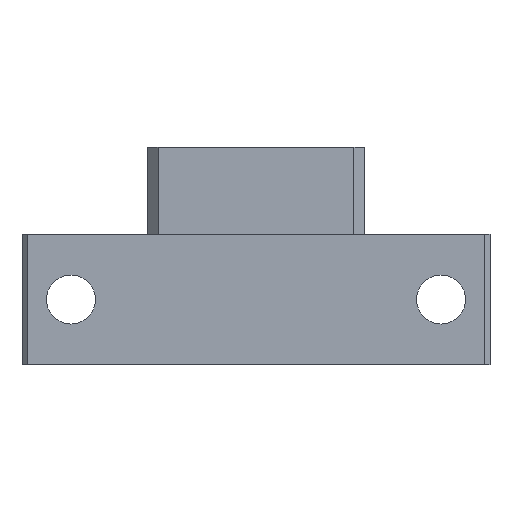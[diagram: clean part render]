
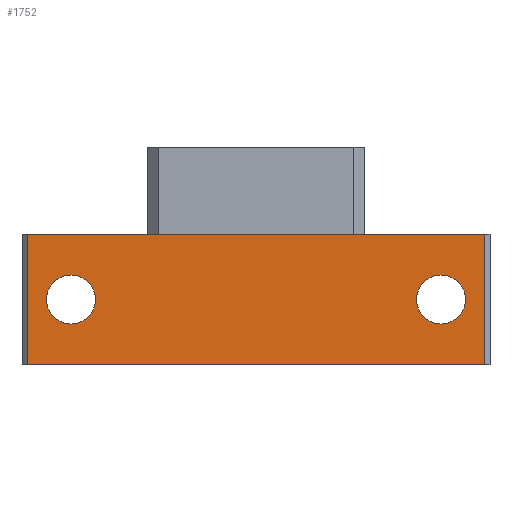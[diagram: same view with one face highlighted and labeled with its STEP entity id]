
A CAD part, front view. The second image highlights one B-rep face of the part: STEP entity #1752.
In plain terms, the highlighted planar face has unit normal (0, -1, 0).
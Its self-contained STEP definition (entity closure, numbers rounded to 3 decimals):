
#57 = DIRECTION ( 'NONE',  ( 0., 1., 0. ) ) ;
#88 = CIRCLE ( 'NONE', #469, 2.25 ) ;
#94 = DIRECTION ( 'NONE',  ( 0., 0., -1. ) ) ;
#267 = DIRECTION ( 'NONE',  ( 0., 0., 1. ) ) ;
#374 = DIRECTION ( 'NONE',  ( 0., 1., 0. ) ) ;
#454 = LINE ( 'NONE', #3348, #1634 ) ;
#469 = AXIS2_PLACEMENT_3D ( 'NONE', #1225, #57, #4131 ) ;
#475 = CARTESIAN_POINT ( 'NONE',  ( -17., -18.5, 6. ) ) ;
#523 = DIRECTION ( 'NONE',  ( 0., 0., 1. ) ) ;
#555 = ORIENTED_EDGE ( 'NONE', *, *, #768, .F. ) ;
#632 = EDGE_CURVE ( 'NONE', #3529, #4217, #684, .T. ) ;
#684 = CIRCLE ( 'NONE', #3341, 2.25 ) ;
#687 = VECTOR ( 'NONE', #3999, 1000. ) ;
#703 = FACE_OUTER_BOUND ( 'NONE', #3134, .T. ) ;
#720 = VECTOR ( 'NONE', #860, 1000. ) ;
#768 = EDGE_CURVE ( 'NONE', #3103, #4300, #1525, .T. ) ;
#801 = CARTESIAN_POINT ( 'NONE',  ( 17., -18.5, 8.25 ) ) ;
#860 = DIRECTION ( 'NONE',  ( 0., 0., -1. ) ) ;
#1006 = LINE ( 'NONE', #2483, #2695 ) ;
#1078 = DIRECTION ( 'NONE',  ( 0., 0., 1. ) ) ;
#1119 = DIRECTION ( 'NONE',  ( 0., -1., 0. ) ) ;
#1120 = AXIS2_PLACEMENT_3D ( 'NONE', #475, #2731, #523 ) ;
#1164 = ORIENTED_EDGE ( 'NONE', *, *, #2159, .T. ) ;
#1225 = CARTESIAN_POINT ( 'NONE',  ( 17., -18.5, 6. ) ) ;
#1250 = CARTESIAN_POINT ( 'NONE',  ( -17., -18.5, 3.75 ) ) ;
#1525 = LINE ( 'NONE', #2979, #687 ) ;
#1590 = EDGE_CURVE ( 'NONE', #4300, #4219, #454, .T. ) ;
#1634 = VECTOR ( 'NONE', #94, 1000. ) ;
#1690 = EDGE_CURVE ( 'NONE', #3649, #3241, #2877, .T. ) ;
#1752 = ADVANCED_FACE ( 'NONE', ( #2805, #4561, #703 ), #4002, .F. ) ;
#1879 = EDGE_LOOP ( 'NONE', ( #4385, #2147 ) ) ;
#1943 = EDGE_CURVE ( 'NONE', #3103, #4393, #4065, .T. ) ;
#1959 = EDGE_LOOP ( 'NONE', ( #3095, #3030 ) ) ;
#2084 = DIRECTION ( 'NONE',  ( 1., 0., 0. ) ) ;
#2130 = CARTESIAN_POINT ( 'NONE',  ( -17., -18.5, 6. ) ) ;
#2147 = ORIENTED_EDGE ( 'NONE', *, *, #3580, .T. ) ;
#2159 = EDGE_CURVE ( 'NONE', #4393, #4219, #1006, .T. ) ;
#2338 = AXIS2_PLACEMENT_3D ( 'NONE', #2558, #3514, #267 ) ;
#2483 = CARTESIAN_POINT ( 'NONE',  ( -21., -18.5, 0. ) ) ;
#2558 = CARTESIAN_POINT ( 'NONE',  ( -21., -18.5, 12. ) ) ;
#2611 = CIRCLE ( 'NONE', #2657, 2.25 ) ;
#2657 = AXIS2_PLACEMENT_3D ( 'NONE', #2130, #1119, #1078 ) ;
#2695 = VECTOR ( 'NONE', #2084, 1000. ) ;
#2731 = DIRECTION ( 'NONE',  ( 0., -1., 0. ) ) ;
#2805 = FACE_BOUND ( 'NONE', #1959, .T. ) ;
#2877 = CIRCLE ( 'NONE', #1120, 2.25 ) ;
#2979 = CARTESIAN_POINT ( 'NONE',  ( -21., -18.5, 12. ) ) ;
#3030 = ORIENTED_EDGE ( 'NONE', *, *, #1690, .F. ) ;
#3086 = CARTESIAN_POINT ( 'NONE',  ( 21., -18.5, 0. ) ) ;
#3095 = ORIENTED_EDGE ( 'NONE', *, *, #3369, .F. ) ;
#3103 = VERTEX_POINT ( 'NONE', #3357 ) ;
#3134 = EDGE_LOOP ( 'NONE', ( #1164, #3149, #555, #4268 ) ) ;
#3149 = ORIENTED_EDGE ( 'NONE', *, *, #1590, .F. ) ;
#3181 = DIRECTION ( 'NONE',  ( 0., 0., 1. ) ) ;
#3241 = VERTEX_POINT ( 'NONE', #4139 ) ;
#3341 = AXIS2_PLACEMENT_3D ( 'NONE', #4672, #374, #3181 ) ;
#3348 = CARTESIAN_POINT ( 'NONE',  ( 21., -18.5, 12. ) ) ;
#3357 = CARTESIAN_POINT ( 'NONE',  ( -21., -18.5, 12. ) ) ;
#3369 = EDGE_CURVE ( 'NONE', #3241, #3649, #2611, .T. ) ;
#3514 = DIRECTION ( 'NONE',  ( 0., 1., 0. ) ) ;
#3529 = VERTEX_POINT ( 'NONE', #801 ) ;
#3580 = EDGE_CURVE ( 'NONE', #4217, #3529, #88, .T. ) ;
#3649 = VERTEX_POINT ( 'NONE', #1250 ) ;
#3698 = CARTESIAN_POINT ( 'NONE',  ( -21., -18.5, 0. ) ) ;
#3872 = CARTESIAN_POINT ( 'NONE',  ( 17., -18.5, 3.75 ) ) ;
#3999 = DIRECTION ( 'NONE',  ( 1., 0., 0. ) ) ;
#4002 = PLANE ( 'NONE',  #2338 ) ;
#4065 = LINE ( 'NONE', #4088, #720 ) ;
#4088 = CARTESIAN_POINT ( 'NONE',  ( -21., -18.5, 12. ) ) ;
#4131 = DIRECTION ( 'NONE',  ( 0., 0., 1. ) ) ;
#4139 = CARTESIAN_POINT ( 'NONE',  ( -17., -18.5, 8.25 ) ) ;
#4217 = VERTEX_POINT ( 'NONE', #3872 ) ;
#4219 = VERTEX_POINT ( 'NONE', #3086 ) ;
#4268 = ORIENTED_EDGE ( 'NONE', *, *, #1943, .T. ) ;
#4300 = VERTEX_POINT ( 'NONE', #4307 ) ;
#4307 = CARTESIAN_POINT ( 'NONE',  ( 21., -18.5, 12. ) ) ;
#4385 = ORIENTED_EDGE ( 'NONE', *, *, #632, .T. ) ;
#4393 = VERTEX_POINT ( 'NONE', #3698 ) ;
#4561 = FACE_BOUND ( 'NONE', #1879, .T. ) ;
#4672 = CARTESIAN_POINT ( 'NONE',  ( 17., -18.5, 6. ) ) ;
